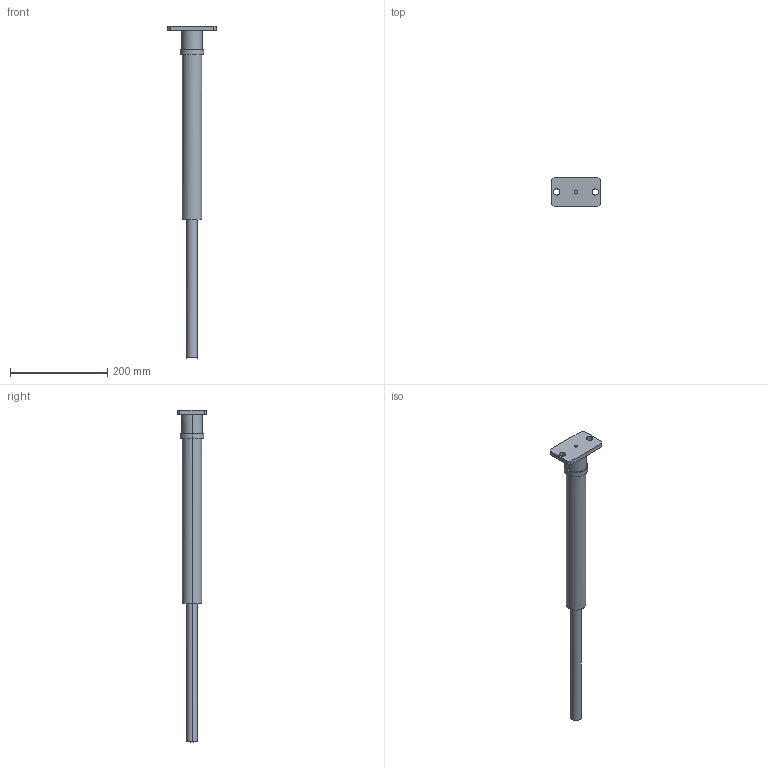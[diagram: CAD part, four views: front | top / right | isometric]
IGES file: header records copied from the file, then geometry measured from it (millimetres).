
Global section: file name: E:\UnigraphicsGraphicData\MISUMI_PRESS-PARTS\IGES\3d_papgu270-340_01678_r00.igs; native system: NX V5.0; preprocessor: UGS NX IGES V5.0; author: MISUMI; date: 20110105.162222; units: millimetre
Bounding box: 100 x 60 x 684 mm (x, y, z)
Surface area: 89336.3 mm2 (no closed solid volume)
Topology: 0 solids, 0 shells, 30 faces, 264 edges, 264 vertices
Faces by surface type: bspline 30
